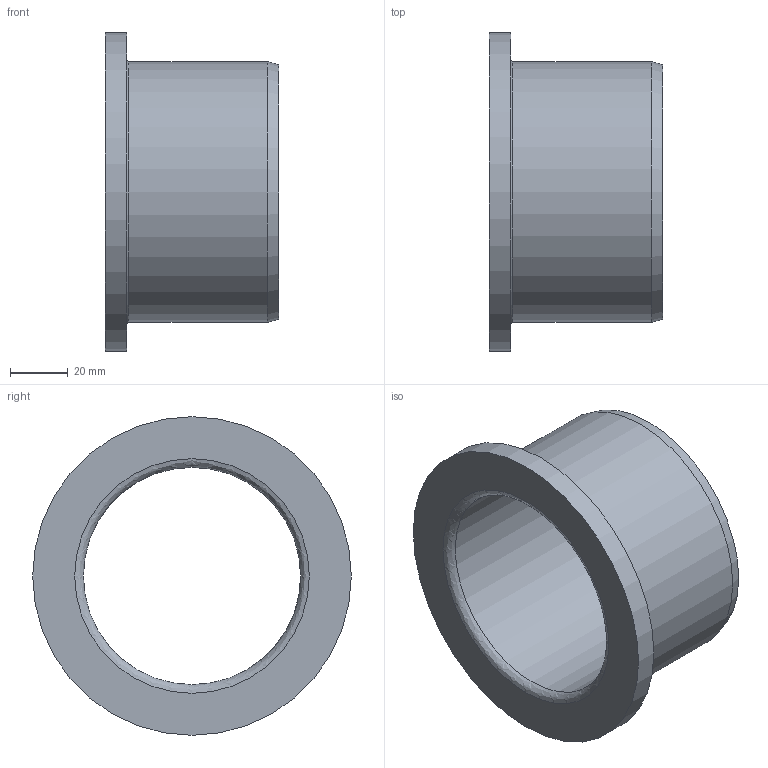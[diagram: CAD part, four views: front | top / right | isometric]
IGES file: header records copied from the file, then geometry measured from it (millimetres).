
Global section: file name: BG07.075060.ipt; native system: Autodesk Inventor 2021; preprocessor: unknown; author: SM; date: 20211217.164701; units: millimetre
Bounding box: 60 x 110 x 110 mm (x, y, z)
Volume: 138695.7 mm3; surface area: 40786.9 mm2
Topology: 1 solids, 1 shells, 10 faces, 25 edges, 18 vertices
Faces by surface type: revolution 4, plane 3, cylinder 2, cone 1
Full cylindrical faces by diameter (mm): 90 x1, 110 x1
